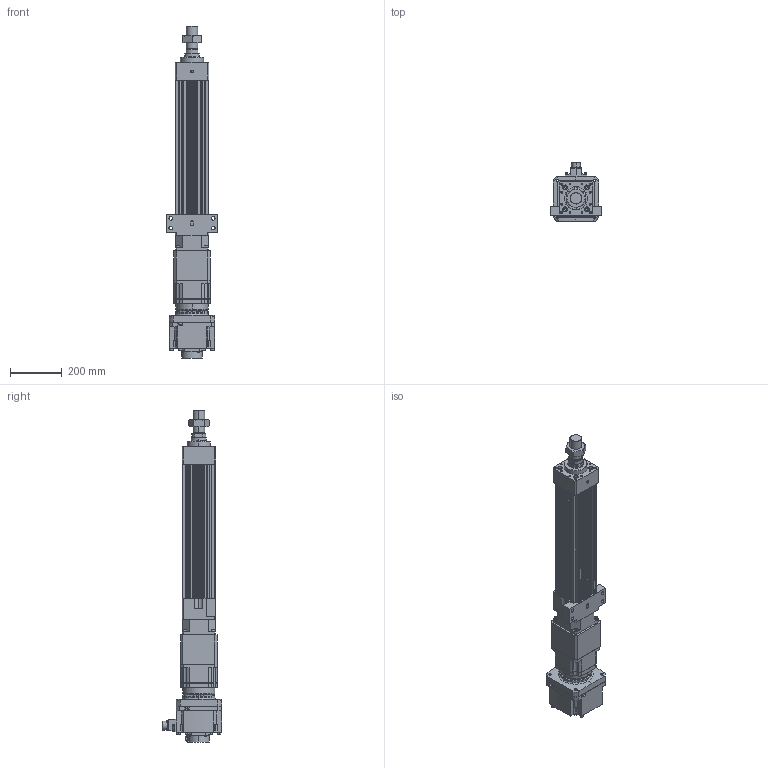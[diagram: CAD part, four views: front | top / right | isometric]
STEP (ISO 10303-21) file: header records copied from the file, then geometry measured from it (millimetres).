
FILE_DESCRIPTION (( 'STEP AP203' ), '1' );
FILE_NAME ('HES130FS(HS)-S300-W020G00-M-FFC.STEP', '2023-01-31T03:08:47', ( 'tms' ), ( '' ), 'SwSTEP 2.0', 'SolidWorks 2013', '' );
FILE_SCHEMA (( 'CONFIG_CONTROL_DESIGN' ));
Length unit declared in the file: millimetre
Products named in the file (9): HES130FS(HS)-S300-W020G00-M-FFC; HES130 ROD M ST300; HG-SR202; P0403500801; M45X1.5P; P1301500001; AB1421; AB142-003[HG-SR352]; HES130-S300-G142-FFC
Assembly tree (8 placements, depth 3):
  HES130FS(HS)-S300-W020G00-M-FFC
    HES130-S300-G142-FFC
    HES130 ROD M ST300
    M45X1.5P
    AB142-003[HG-SR352]
      AB1421
      P1301500001
      P0403500801
    HG-SR202
Bounding box: 200 x 228.85 x 1287.5 mm (x, y, z)
Volume: 11496885.2 mm3; surface area: 1458576.7 mm2
Topology: 4 solids, 22 shells, 1546 faces, 3982 edges, 2565 vertices
Faces by surface type: cylinder 694, plane 586, cone 184, bspline 76, torus 6
Entity records: 55838 total; most frequent: CARTESIAN_POINT 16862, DIRECTION 8160, ORIENTED_EDGE 7822, EDGE_CURVE 3933, AXIS2_PLACEMENT_3D 3080, VERTEX_POINT 2565, VECTOR 2000, LINE 2000
